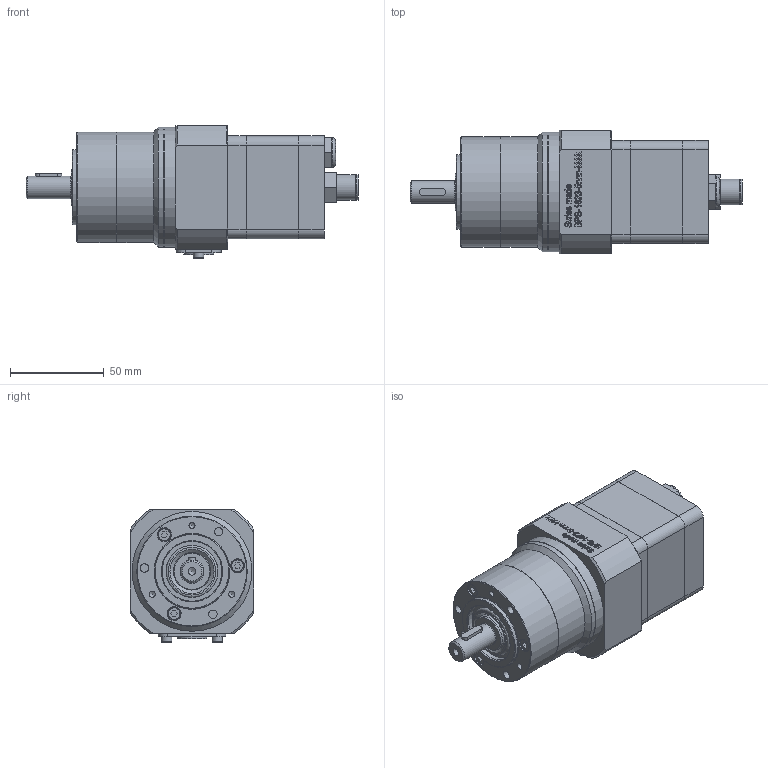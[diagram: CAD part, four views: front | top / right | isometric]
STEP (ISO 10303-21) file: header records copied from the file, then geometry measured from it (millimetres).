
FILE_DESCRIPTION(/* description */ (''),/* implementation_level */ '2;1');
FILE_NAME(/* name */ 'G:\02 CAD Dateien\02 - CAD Schrittmotoren BPS\01 - Standart Produkte\BPS 1620-23\Verkaufsunterlagen\STEP ab JULI 2017\500-1623-372 Schrittmotor BPS-1623-MX.stp',/* time_stamp */ '2017-12-20T14:48:12+01:00',/* author */ ('RSc'),/* organization */ (''),/* preprocessor_version */ 'ST-DEVELOPER v16.1',/* originating_system */ 'Autodesk Inventor 2016',/* authorisation */ '');
FILE_SCHEMA (('AUTOMOTIVE_DESIGN { 1 0 10303 214 3 1 1 }'));
Length unit declared in the file: millimetre
Products named in the file (1): 500-1623-372 Schrittmotor BPS-1623-MX
Bounding box: 177.4 x 66 x 71 mm (x, y, z)
Volume: 421950 mm3; surface area: 50679.2 mm2
Topology: 2 solids, 22 shells, 785 faces, 1952 edges, 1286 vertices
Faces by surface type: plane 418, bspline 217, cylinder 109, cone 28, torus 13
Full cylindrical faces by diameter (mm): 3 x5, 3.242 x3, 3.3 x6, 4 x3, 4.134 x1, 4.5 x6, 5.5 x4, 7 x3, 7.5 x3, 8 x9, 8.566 x4, 10.5 x1, 11 x1, 12 x1, 12.6 x1, 13.6 x2, 16 x2, 20 x1, 25.4 x1, 32 x1, 40 x1, 59 x2, 64 x2
Entity records: 24656 total; most frequent: CARTESIAN_POINT 7079, ORIENTED_EDGE 3674, DIRECTION 2750, EDGE_CURVE 1832, VERTEX_POINT 1260, LINE 1114, VECTOR 1114, EDGE_LOOP 976
